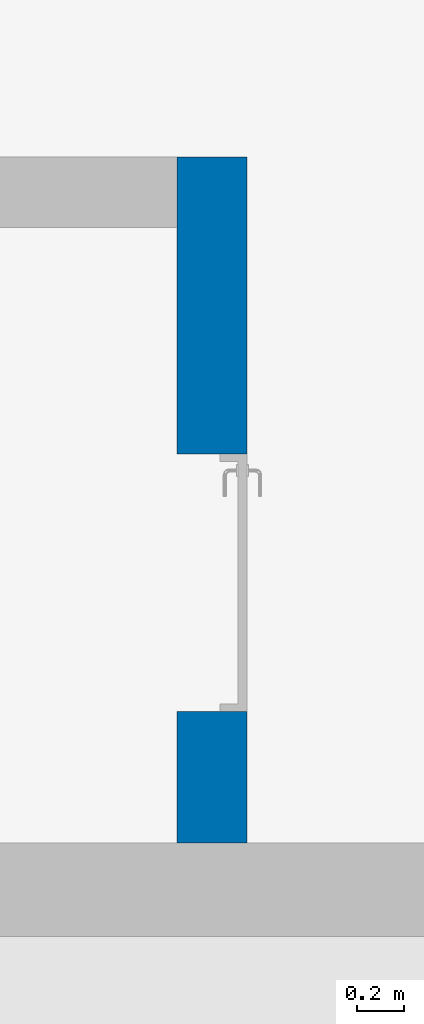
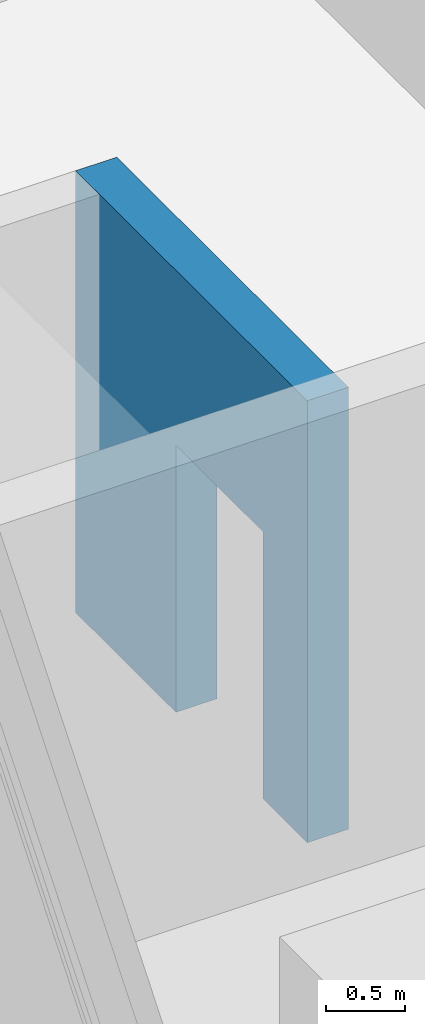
# One storey, part 112 of 301: 1 wall, 1 opening.
"""IFC2X3 building model written with IfcOpenShell, lengths in millimetres."""

from ifc_helpers import new_model, entity, si_unit, converted_unit, derived_unit, money_unit, direction, frame, origin_with_axes, place, context, subcontext, project, spatial, faceted_brep, material, type_object, element, save


model = new_model("IFC2X3")

# Units and contexts
model_context = context("Model", 3, precision=0.01, world=origin_with_axes(), true_north=direction((0.0, 1.0)))
body_context = subcontext(model_context, "Body", "Model", "MODEL_VIEW")
ifc_project = project(units=[si_unit("LENGTHUNIT", "METRE", prefix="MILLI"), si_unit("AREAUNIT", "SQUARE_METRE"), si_unit("VOLUMEUNIT", "CUBIC_METRE"), converted_unit("PLANEANGLEUNIT", "DEGREE", entity("IfcPlaneAngleMeasure", 0.0174532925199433), si_unit("PLANEANGLEUNIT", "RADIAN"), dimensions=[0, 0, 0, 0, 0, 0, 0]), money_unit("EUR"), converted_unit("TIMEUNIT", "Year", entity("IfcTimeMeasure", 31557600.0), si_unit("TIMEUNIT", "SECOND"), dimensions=[0, 0, 1, 0, 0, 0, 0]), si_unit("MASSUNIT", "GRAM", prefix="KILO"), si_unit("THERMODYNAMICTEMPERATUREUNIT", "DEGREE_CELSIUS"), si_unit("LUMINOUSINTENSITYUNIT", "LUMEN"), si_unit("ENERGYUNIT", "JOULE", prefix="MEGA"), derived_unit("THERMALCONDUCTANCEUNIT", [(si_unit("POWERUNIT", "WATT"), 1), (si_unit("LENGTHUNIT", "METRE"), -1), (si_unit("THERMODYNAMICTEMPERATUREUNIT", "KELVIN"), -1)]), derived_unit("SPECIFICHEATCAPACITYUNIT", [(si_unit("ENERGYUNIT", "JOULE"), 1), (si_unit("MASSUNIT", "GRAM", prefix="KILO"), -1), (si_unit("THERMODYNAMICTEMPERATUREUNIT", "KELVIN"), -1)]), derived_unit("MASSDENSITYUNIT", [(si_unit("MASSUNIT", "GRAM", prefix="KILO"), 1), (si_unit("VOLUMEUNIT", "CUBIC_METRE"), -1)])], contexts=[model_context])

# Site, building, storey
site_placement = place(None, frame((0.0, 0.0, 8650.0), z_axis=(0.0, 0.0, 1.0), x_axis=(1.0, 0.0, 0.0)))
site = spatial("IfcSite", under=ifc_project, at=site_placement, Name="43301:001:0844", CompositionType="ELEMENT")
building_placement = place(site_placement, origin_with_axes())
building = spatial("IfcBuilding", under=site, at=building_placement, Name="Kuressaare Ametikooli tuulikute mehaanikute õppekorpus", CompositionType="ELEMENT")
storey_placement = place(building_placement, origin_with_axes())
storey = spatial("IfcBuildingStorey", under=building, at=storey_placement, Name="1.korrus", CompositionType="ELEMENT", Elevation=0.0)

# Wall, opening
ifc_material = material(Name="GENEERILINE - KONSTRUKTRIOON")
wall_type = type_object("IfcWallType", Name="GENEERILINE - KONSTRUKTRIOON 300", PredefinedType="NOTDEFINED")
wall_placement = place(storey_placement, frame((91159.67655181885, 25783.06892395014, 0.0), z_axis=(0.0, 0.0, 1.0), x_axis=(0.0, 1.0, 0.0)))
wall = element("IfcWall", 1, at=wall_placement, inside=storey, type_object=wall_type, material=ifc_material, context=body_context, shape_type="Brep", body=[
    faceted_brep([(959.8414611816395, 0.0, 0.0), (959.8414611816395, 0.0, 2060.0), (2059.841461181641, 0.0, 2060.0), (2059.841461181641, 0.0, 0.0), (3327.841491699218, 0.0, 0.0), (3327.841491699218, 0.0, 3410.0), (3258.891049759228, 0.0, 3410.0), (3258.891049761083, 0.0, 3308.052521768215), (3238.890520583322, 0.0, 3308.052521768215), (3218.150488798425, 0.0, 3395.629802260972), (3213.575859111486, 0.0, 3404.425665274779), (3205.376983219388, 0.0, 3410.0), (1786.40433246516, 0.0, 3410.0), (1786.40433246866, 0.0, 3308.052521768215), (1766.403803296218, 0.0, 3308.052521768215), (1745.663771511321, 0.0, 3395.629802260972), (1741.089141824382, 0.0, 3404.425665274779), (1732.890265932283, 0.0, 3410.0), (399.9999999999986, 0.0, 3410.0), (399.9999999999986, 0.0, 0.0), (959.8414611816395, 299.9999999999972, 0.0), (959.8414611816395, 299.9999999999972, 2060.0), (2059.841461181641, 299.9999999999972, 2060.0), (2059.841461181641, 299.9999999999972, 0.0), (3327.841491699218, 299.9999999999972, 0.0), (3327.841491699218, 299.9999999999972, 3410.0), (1732.890648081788, 0.1430042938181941, 3410.0), (3205.377365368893, 0.143004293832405, 3410.0), (399.9999999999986, 299.9999999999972, 3410.0), (3213.576182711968, 0.1210946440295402, 3404.425665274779), (3218.150779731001, 0.1088699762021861, 3395.629802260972), (3238.890663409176, 0.053446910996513, 3308.052521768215), (1741.089465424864, 0.1210946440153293, 3404.425665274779), (1745.664062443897, 0.1088699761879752, 3395.629802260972), (1766.403946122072, 0.05344691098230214, 3308.052521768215), (399.9999999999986, 299.9999999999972, 0.0)], [[[0, 1, 2, 3, 4, 5, 6, 7, 8, 9, 10, 11, 12, 13, 14, 15, 16, 17, 18, 19]], [[1, 0, 20, 21]], [[2, 1, 21, 22]], [[3, 2, 22, 23]], [[3, 23, 24, 4]], [[4, 24, 25, 5]], [[18, 17, 26, 12, 11, 27, 6, 5, 25, 28]], [[27, 29, 30, 31, 7, 6]], [[31, 8, 7]], [[9, 8, 31, 30]], [[10, 9, 30, 29]], [[11, 10, 29, 27]], [[26, 32, 33, 34, 13, 12]], [[34, 14, 13]], [[15, 14, 34, 33]], [[16, 15, 33, 32]], [[17, 16, 32, 26]], [[28, 35, 19, 18]], [[20, 0, 19, 35]], [[21, 20, 35, 28, 25, 24, 23, 22]]]),
])
opening_placement = place(wall_placement, frame((1509.84146118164, 0.0, 0.0), z_axis=(0.0, 0.0, 1.0), x_axis=(1.0, 0.0, 0.0)))
element("IfcOpeningElement", 2, at=opening_placement, cuts=wall, Name="SU-XX", context=body_context, shape_type="Brep", body=[
    faceted_brep([(550.0000000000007, 301.0000000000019, 2060.0), (550.0000000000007, 301.0000000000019, 0.0), (-550.0000000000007, 301.0000000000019, 0.0), (-550.0000000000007, 301.0000000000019, 2060.0), (550.0000000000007, -1.000000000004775, 2060.0), (550.0000000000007, -1.000000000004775, 0.0), (-550.0000000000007, -1.000000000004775, 0.0), (-550.0000000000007, -1.000000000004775, 2060.0)], [[[0, 1, 2, 3]], [[4, 5, 1, 0]], [[5, 6, 2, 1]], [[6, 7, 3, 2]], [[7, 4, 0, 3]], [[6, 5, 4, 7]]]),
])

save(model, "model.ifc")
